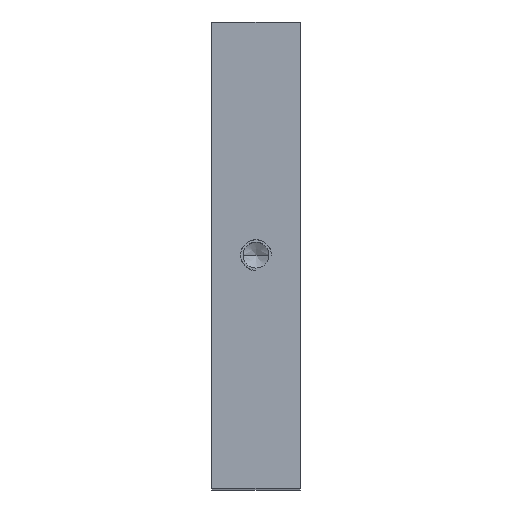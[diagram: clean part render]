
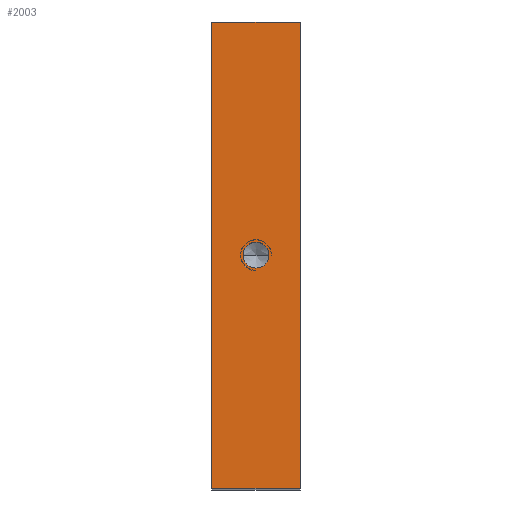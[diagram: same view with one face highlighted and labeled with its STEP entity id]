
A CAD part, top view. The second image highlights one B-rep face of the part: STEP entity #2003.
In plain terms, the highlighted planar face has unit normal (0, 0, 1).
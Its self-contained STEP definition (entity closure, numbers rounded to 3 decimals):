
#89 = DIRECTION ( 'NONE',  ( 0., 0., 1. ) ) ;
#121 = DIRECTION ( 'NONE',  ( 0., 0., 1. ) ) ;
#122 = AXIS2_PLACEMENT_3D ( 'NONE', #677, #2243, #2389 ) ;
#148 = CARTESIAN_POINT ( 'NONE',  ( -110.5, 2.5, 98. ) ) ;
#176 = ORIENTED_EDGE ( 'NONE', *, *, #1082, .T. ) ;
#204 = VECTOR ( 'NONE', #2125, 1000. ) ;
#263 = CARTESIAN_POINT ( 'NONE',  ( -110.5, 0., 98. ) ) ;
#287 = CARTESIAN_POINT ( 'NONE',  ( -119., 45., 98. ) ) ;
#301 = CARTESIAN_POINT ( 'NONE',  ( -110.5, -2.95, 98. ) ) ;
#327 = LINE ( 'NONE', #1936, #204 ) ;
#339 = CARTESIAN_POINT ( 'NONE',  ( -119., -45., 98. ) ) ;
#368 = CARTESIAN_POINT ( 'NONE',  ( -119., -45., 98. ) ) ;
#421 = VERTEX_POINT ( 'NONE', #1052 ) ;
#442 = DIRECTION ( 'NONE',  ( 1., 0., 0. ) ) ;
#457 = CARTESIAN_POINT ( 'NONE',  ( -110.5, -3., 98. ) ) ;
#469 = VERTEX_POINT ( 'NONE', #612 ) ;
#504 = LINE ( 'NONE', #1722, #2431 ) ;
#550 = ORIENTED_EDGE ( 'NONE', *, *, #2246, .F. ) ;
#585 = DIRECTION ( 'NONE',  ( 0., -1., 0. ) ) ;
#592 = CIRCLE ( 'NONE', #681, 3. ) ;
#606 = AXIS2_PLACEMENT_3D ( 'NONE', #368, #121, #2455 ) ;
#612 = CARTESIAN_POINT ( 'NONE',  ( -102., 45., 98. ) ) ;
#661 = AXIS2_PLACEMENT_3D ( 'NONE', #1848, #89, #871 ) ;
#677 = CARTESIAN_POINT ( 'NONE',  ( -110.5, 0., 98. ) ) ;
#681 = AXIS2_PLACEMENT_3D ( 'NONE', #2345, #2293, #585 ) ;
#697 = VERTEX_POINT ( 'NONE', #148 ) ;
#705 = EDGE_CURVE ( 'NONE', #2261, #1037, #592, .T. ) ;
#748 = CARTESIAN_POINT ( 'NONE',  ( -119., -45., 98. ) ) ;
#764 = VERTEX_POINT ( 'NONE', #1592 ) ;
#835 = CIRCLE ( 'NONE', #1000, 2.5 ) ;
#871 = DIRECTION ( 'NONE',  ( 0., -1., 0. ) ) ;
#905 = VERTEX_POINT ( 'NONE', #961 ) ;
#949 = EDGE_LOOP ( 'NONE', ( #1243, #2422, #1905, #2175 ) ) ;
#950 = CARTESIAN_POINT ( 'NONE',  ( -110.5, -23.988, 98. ) ) ;
#961 = CARTESIAN_POINT ( 'NONE',  ( -119., 45., 98. ) ) ;
#972 = LINE ( 'NONE', #1981, #1764 ) ;
#1000 = AXIS2_PLACEMENT_3D ( 'NONE', #263, #1068, #442 ) ;
#1003 = DIRECTION ( 'NONE',  ( 0., -1., 0. ) ) ;
#1037 = VERTEX_POINT ( 'NONE', #1998 ) ;
#1052 = CARTESIAN_POINT ( 'NONE',  ( -110.5, -2.5, 98. ) ) ;
#1064 = EDGE_CURVE ( 'NONE', #2282, #1161, #1771, .T. ) ;
#1068 = DIRECTION ( 'NONE',  ( 0., 0., -1. ) ) ;
#1082 = EDGE_CURVE ( 'NONE', #421, #697, #1567, .T. ) ;
#1110 = PLANE ( 'NONE',  #606 ) ;
#1131 = VERTEX_POINT ( 'NONE', #339 ) ;
#1161 = VERTEX_POINT ( 'NONE', #301 ) ;
#1180 = LINE ( 'NONE', #748, #2079 ) ;
#1243 = ORIENTED_EDGE ( 'NONE', *, *, #2446, .T. ) ;
#1278 = EDGE_CURVE ( 'NONE', #1131, #764, #1180, .T. ) ;
#1334 = ORIENTED_EDGE ( 'NONE', *, *, #2151, .F. ) ;
#1494 = VECTOR ( 'NONE', #1003, 1000. ) ;
#1524 = FACE_OUTER_BOUND ( 'NONE', #1572, .T. ) ;
#1535 = DIRECTION ( 'NONE',  ( 1., 0., 0. ) ) ;
#1567 = CIRCLE ( 'NONE', #122, 2.5 ) ;
#1572 = EDGE_LOOP ( 'NONE', ( #1914, #550, #1334, #2462 ) ) ;
#1573 = LINE ( 'NONE', #950, #1494 ) ;
#1592 = CARTESIAN_POINT ( 'NONE',  ( -102., -45., 98. ) ) ;
#1711 = ORIENTED_EDGE ( 'NONE', *, *, #2320, .T. ) ;
#1722 = CARTESIAN_POINT ( 'NONE',  ( -113.263, 0., 98. ) ) ;
#1764 = VECTOR ( 'NONE', #2361, 1000. ) ;
#1771 = CIRCLE ( 'NONE', #661, 2.95 ) ;
#1848 = CARTESIAN_POINT ( 'NONE',  ( -110.5, 0., 98. ) ) ;
#1903 = DIRECTION ( 'NONE',  ( -1., 0., 0. ) ) ;
#1905 = ORIENTED_EDGE ( 'NONE', *, *, #2516, .T. ) ;
#1914 = ORIENTED_EDGE ( 'NONE', *, *, #2000, .T. ) ;
#1936 = CARTESIAN_POINT ( 'NONE',  ( -102., -45., 98. ) ) ;
#1981 = CARTESIAN_POINT ( 'NONE',  ( -119., -45., 98. ) ) ;
#1998 = CARTESIAN_POINT ( 'NONE',  ( -107.5, 0., 98. ) ) ;
#2000 = EDGE_CURVE ( 'NONE', #764, #469, #327, .T. ) ;
#2003 = ADVANCED_FACE ( 'NONE', ( #1524, #2076, #2091 ), #1110, .T. ) ;
#2058 = LINE ( 'NONE', #287, #2485 ) ;
#2076 = FACE_BOUND ( 'NONE', #2250, .T. ) ;
#2079 = VECTOR ( 'NONE', #1535, 1000. ) ;
#2091 = FACE_BOUND ( 'NONE', #949, .T. ) ;
#2125 = DIRECTION ( 'NONE',  ( 0., 1., 0. ) ) ;
#2151 = EDGE_CURVE ( 'NONE', #1131, #905, #972, .T. ) ;
#2175 = ORIENTED_EDGE ( 'NONE', *, *, #705, .T. ) ;
#2227 = DIRECTION ( 'NONE',  ( 1., 0., 0. ) ) ;
#2243 = DIRECTION ( 'NONE',  ( 0., 0., -1. ) ) ;
#2246 = EDGE_CURVE ( 'NONE', #905, #469, #2058, .T. ) ;
#2250 = EDGE_LOOP ( 'NONE', ( #176, #1711 ) ) ;
#2253 = CARTESIAN_POINT ( 'NONE',  ( -107.55, 0., 98. ) ) ;
#2261 = VERTEX_POINT ( 'NONE', #457 ) ;
#2282 = VERTEX_POINT ( 'NONE', #2253 ) ;
#2293 = DIRECTION ( 'NONE',  ( 0., 0., -1. ) ) ;
#2320 = EDGE_CURVE ( 'NONE', #697, #421, #835, .T. ) ;
#2345 = CARTESIAN_POINT ( 'NONE',  ( -110.5, 0., 98. ) ) ;
#2361 = DIRECTION ( 'NONE',  ( 0., 1., 0. ) ) ;
#2389 = DIRECTION ( 'NONE',  ( 1., 0., 0. ) ) ;
#2422 = ORIENTED_EDGE ( 'NONE', *, *, #1064, .T. ) ;
#2431 = VECTOR ( 'NONE', #1903, 1000. ) ;
#2446 = EDGE_CURVE ( 'NONE', #1037, #2282, #504, .T. ) ;
#2455 = DIRECTION ( 'NONE',  ( 1., 0., 0. ) ) ;
#2462 = ORIENTED_EDGE ( 'NONE', *, *, #1278, .T. ) ;
#2485 = VECTOR ( 'NONE', #2227, 1000. ) ;
#2516 = EDGE_CURVE ( 'NONE', #1161, #2261, #1573, .T. ) ;
